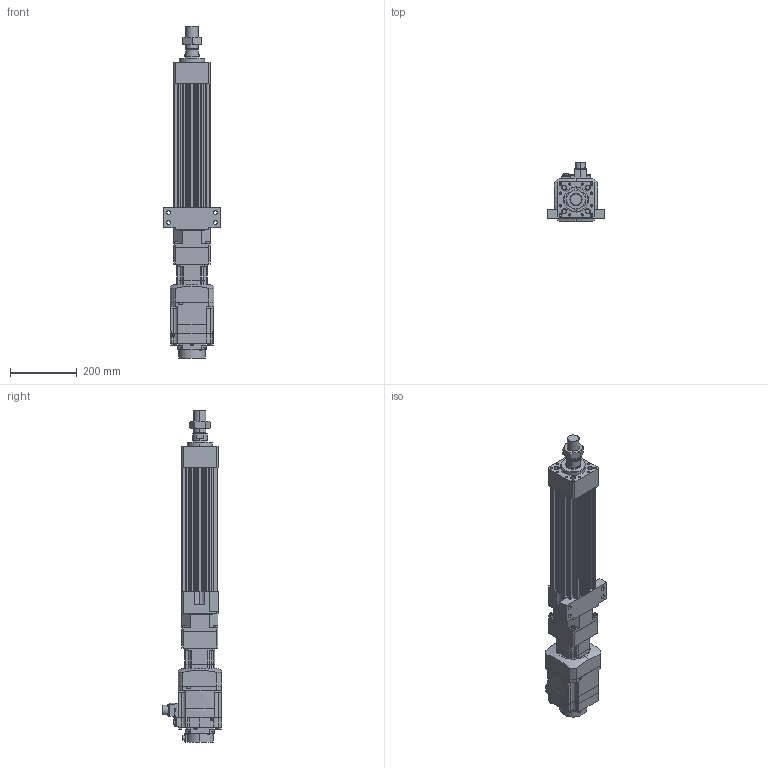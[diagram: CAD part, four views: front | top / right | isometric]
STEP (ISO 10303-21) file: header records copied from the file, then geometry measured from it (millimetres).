
FILE_DESCRIPTION (( 'STEP AP203' ), '1' );
FILE_NAME ('HES110NS(HS)-S200-W010G00-M-FFC.STEP', '2026-06-10T06:01:49', ( 'tms' ), ( '' ), 'SwSTEP 2.0', 'SolidWorks 2013', '' );
FILE_SCHEMA (( 'CONFIG_CONTROL_DESIGN' ));
Length unit declared in the file: millimetre
Products named in the file (8): HES110-S-G90; HES110-FFC-200; HES110NS(HS)-S200-W010G00-M-FFC; HG-SR102B; AB0901; HES110-M-ROD-200; M36X1.5P; AB0902
Assembly tree (7 placements, depth 2):
  HES110NS(HS)-S200-W010G00-M-FFC
    HES110-FFC-200
    HES110-M-ROD-200
    M36X1.5P
    HES110-S-G90
    AB0901
    AB0902
    HG-SR102B
Bounding box: 170 x 177.49 x 993 mm (x, y, z)
Volume: 6744052.7 mm3; surface area: 844651.6 mm2
Topology: 5 solids, 12 shells, 1228 faces, 3114 edges, 2013 vertices
Faces by surface type: cylinder 568, plane 554, cone 92, bspline 10, torus 4
Entity records: 39020 total; most frequent: CARTESIAN_POINT 7659, DIRECTION 6711, ORIENTED_EDGE 6152, EDGE_CURVE 3086, AXIS2_PLACEMENT_3D 2489, VERTEX_POINT 2013, LINE 1733, VECTOR 1733
